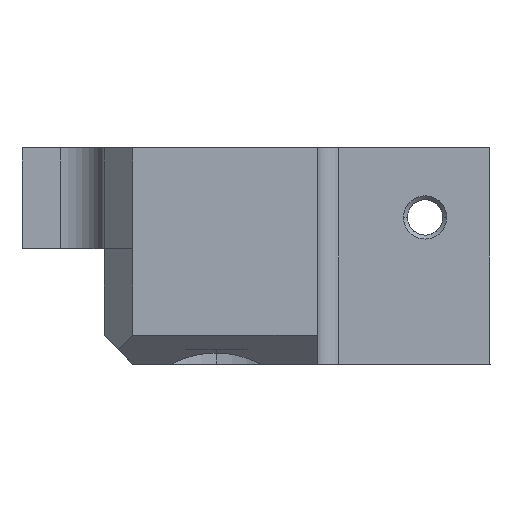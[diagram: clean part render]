
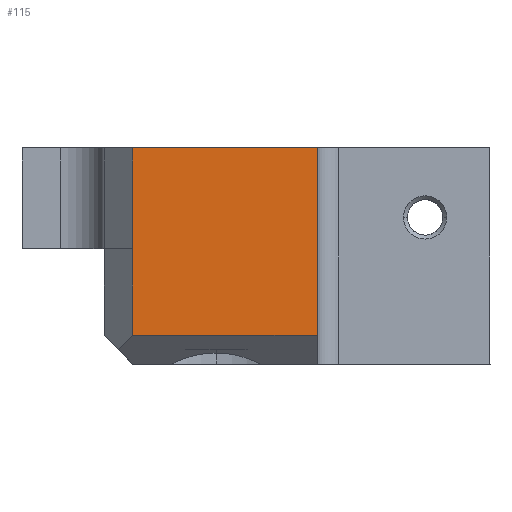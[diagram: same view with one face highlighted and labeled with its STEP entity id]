
A CAD part, left-side view. The second image highlights one B-rep face of the part: STEP entity #115.
In plain terms, the highlighted planar face has unit normal (-1, 0, 0).
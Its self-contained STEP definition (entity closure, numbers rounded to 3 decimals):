
#115=ADVANCED_FACE('',(#196),#770,.T.);
#196=FACE_OUTER_BOUND('',#277,.F.);
#277=EDGE_LOOP('',(#396,#397,#398,#399,#400));
#396=ORIENTED_EDGE('',*,*,#983,.T.);
#397=ORIENTED_EDGE('',*,*,#941,.T.);
#398=ORIENTED_EDGE('',*,*,#938,.T.);
#399=ORIENTED_EDGE('',*,*,#894,.T.);
#400=ORIENTED_EDGE('',*,*,#893,.T.);
#770=PLANE('',#1514);
#893=EDGE_CURVE('',#1434,#1436,#1092,.T.);
#894=EDGE_CURVE('',#1439,#1434,#1093,.T.);
#938=EDGE_CURVE('',#1396,#1439,#1129,.T.);
#941=EDGE_CURVE('',#1391,#1396,#1132,.T.);
#983=EDGE_CURVE('',#1436,#1391,#1158,.T.);
#1092=LINE('',#2128,#1219);
#1093=LINE('',#2129,#1220);
#1129=LINE('',#2277,#1256);
#1132=LINE('',#2280,#1259);
#1158=LINE('',#2336,#1285);
#1219=VECTOR('',#1614,7.);
#1220=VECTOR('',#1615,6.);
#1256=VECTOR('',#1651,12.768);
#1259=VECTOR('',#1654,13.);
#1285=VECTOR('',#1708,12.768);
#1391=VERTEX_POINT('',#2063);
#1396=VERTEX_POINT('',#2068);
#1434=VERTEX_POINT('',#2106);
#1436=VERTEX_POINT('',#2108);
#1439=VERTEX_POINT('',#2111);
#1514=AXIS2_PLACEMENT_3D('',#2411,#1818,#1819);
#1614=DIRECTION('',(0.,0.,1.));
#1615=DIRECTION('',(0.,0.,1.));
#1651=DIRECTION('',(0.,1.,0.));
#1654=DIRECTION('',(0.,0.,-1.));
#1708=DIRECTION('',(0.,-1.,0.));
#1818=DIRECTION('',(-1.,0.,0.));
#1819=DIRECTION('',(0.,-1.,0.));
#2063=CARTESIAN_POINT('',(-78.725,803.225,-70.));
#2068=CARTESIAN_POINT('',(-78.725,803.225,-83.));
#2106=CARTESIAN_POINT('',(-78.725,815.993,-77.));
#2108=CARTESIAN_POINT('',(-78.725,815.993,-70.));
#2111=CARTESIAN_POINT('',(-78.725,815.993,-83.));
#2128=CARTESIAN_POINT('',(-78.725,815.993,-77.));
#2129=CARTESIAN_POINT('',(-78.725,815.993,-83.));
#2277=CARTESIAN_POINT('',(-78.725,803.225,-83.));
#2280=CARTESIAN_POINT('',(-78.725,803.225,-70.));
#2336=CARTESIAN_POINT('',(-78.725,815.993,-70.));
#2411=CARTESIAN_POINT('',(-78.725,823.69,-85.));
